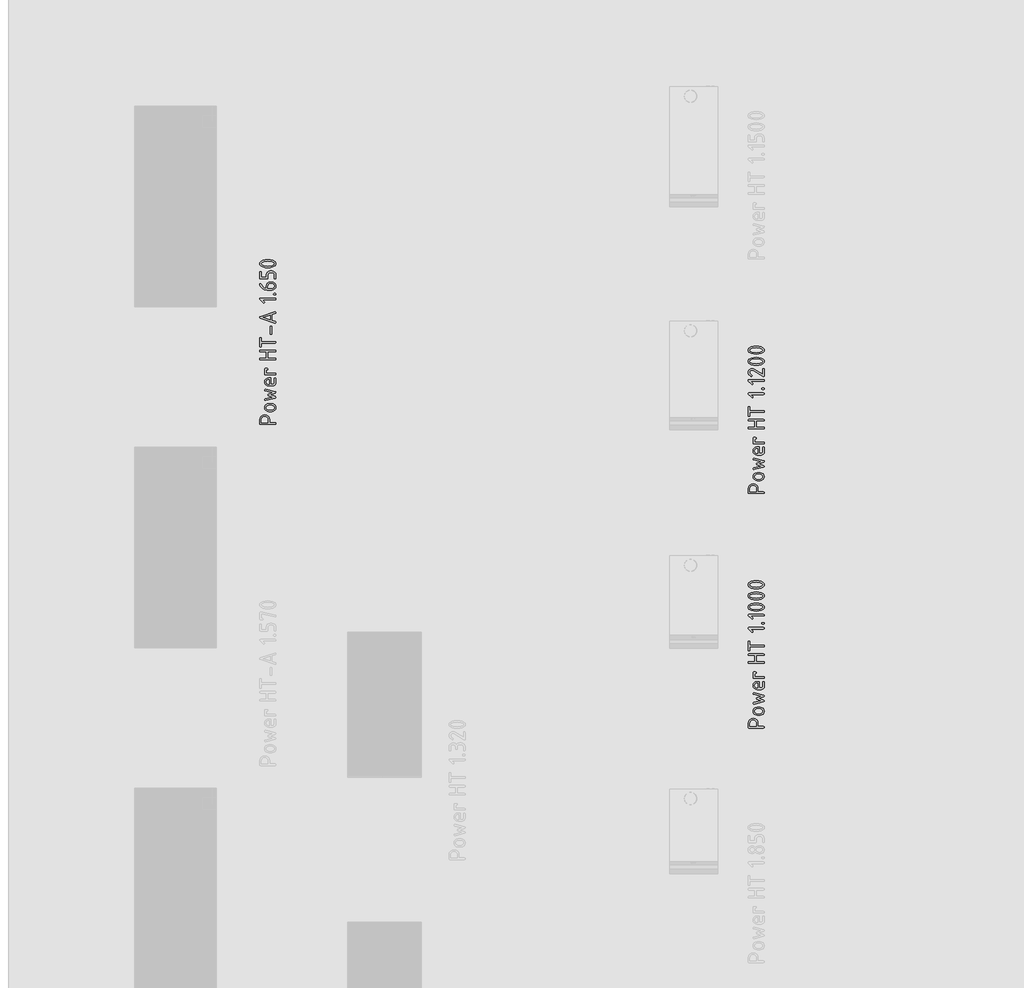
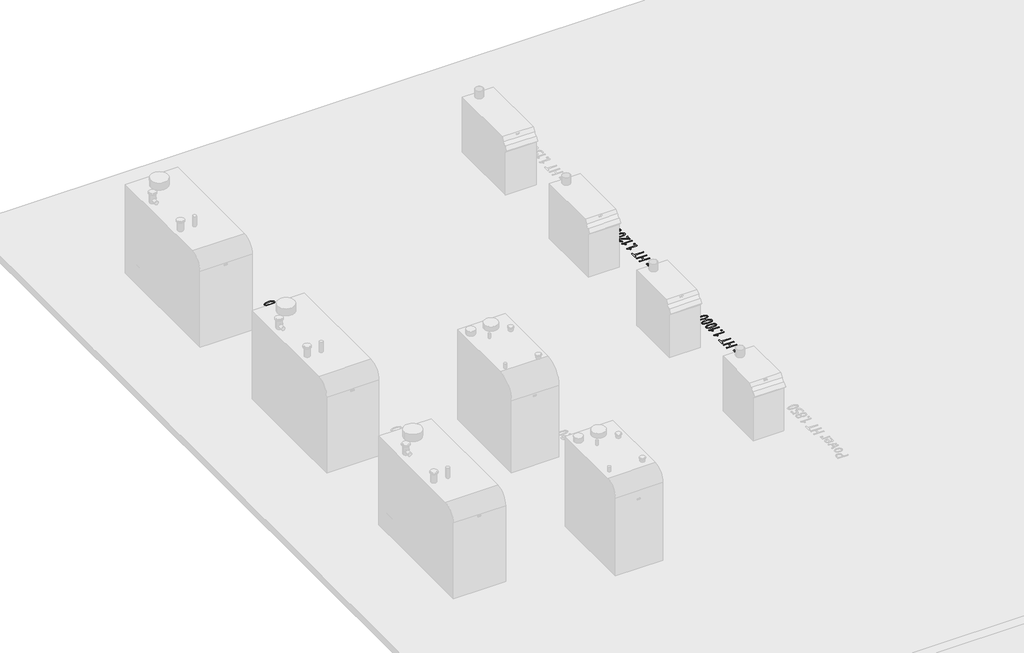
# One storey, part 33 of 37: 3 proxies.
"""IFC4 building model written with IfcOpenShell, lengths in millimetres."""

from ifc_helpers import new_model, si_unit, frame, origin, place, context, project, spatial, polyline, outline, extrude, element, save

model = new_model("IFC4")

# Units and contexts
model_context = context("Model", 3, world=origin())
ifc_project = project(units=[si_unit("LENGTHUNIT", "METRE", prefix="MILLI")], contexts=[model_context])

# Site, building, storey
site = spatial("IfcSite", under=ifc_project)
building = spatial("IfcBuilding", under=site)
storey = spatial("IfcBuildingStorey", under=building, Name="01_Стартовый вид_Площадка", Elevation=0.0)

# Proxies
placement = place(None, origin())
element("IfcBuildingElementProxy", 1, Name="150 мм", ObjectType="150 мм", at=placement, inside=storey, context=model_context, shape_type="SweptSolid", body=[
    extrude(outline(polyline([(4705.0274469, 2232.9020615), (4705.0274469, 2270.1769062), (4708.3833815, 2287.4310044), (4718.4511852, 2301.8785025), (4733.3131812, 2311.661651), (4751.0516925, 2314.9227005), (4769.5892359, 2311.8314453), (4784.2914255, 2302.5576797), (4793.87981, 2288.3399033), (4797.0759381, 2270.4166158), (4797.0759381, 2240.7725271), (4848.5336016, 2240.7725271), (4854.0469227, 2238.8548502), (4855.8846964, 2233.1018195), (4853.9969832, 2227.3487888), (4848.3338436, 2225.4311119), (4712.5782997, 2225.4311119), (4706.9151601, 2227.2988493), (4705.0274469, 2232.9020615)]), holes=[polyline([(4720.3688621, 2240.7725271), (4781.7345229, 2240.7725271), (4781.7345229, 2270.1769062), (4779.5122151, 2281.5681068), (4772.8452915, 2291.0516183), (4762.952276, 2297.4488686), (4751.0516925, 2299.5812853), (4739.1511091, 2297.4488686), (4729.2580936, 2291.0516183), (4722.59117, 2281.5681068), (4720.3688621, 2270.1769062), (4720.3688621, 2240.7725271)])]), frame((0.0, 0.0, -10.0), z_axis=(0.0, 0.0, 1.0), x_axis=(1.0, 0.0, 0.0)), (0.0, 0.0, 1.0), 10.0),
    extrude(outline(polyline([(4818.4500452, 2345.6055309), (4788.4863437, 2345.6055309), (4774.093779, 2348.3172459), (4761.9984315, 2356.4523909), (4753.7883773, 2368.4328776), (4751.0516925, 2382.6806177), (4753.7584136, 2397.0781763), (4761.8785767, 2409.0286992), (4773.9439605, 2417.0739531), (4788.4863437, 2419.7557044), (4818.4500452, 2419.7557044), (4832.8426099, 2417.0439894), (4844.9379574, 2408.9088444), (4853.1480116, 2396.9283577), (4855.8846964, 2382.6806177), (4853.1480116, 2368.4328776), (4844.9379574, 2356.4523909), (4832.8426099, 2348.3172459), (4818.4500452, 2345.6055309)]), holes=[polyline([(4818.0105776, 2404.4142892), (4788.0069245, 2404.4142892), (4779.3773784, 2402.8212191), (4772.1061868, 2398.0420087), (4767.1621761, 2391.0155206), (4765.5141725, 2382.6806177), (4767.1621761, 2374.3457147), (4772.1061868, 2367.3192267), (4779.3773784, 2362.5400163), (4788.0069245, 2360.9469461), (4818.0105776, 2360.9469461), (4826.7200269, 2362.5250344), (4833.9912184, 2367.2592993), (4838.9052655, 2374.2708054), (4840.5432812, 2382.6806177), (4838.8952776, 2391.0155206), (4833.9512668, 2398.0420087), (4826.6700874, 2402.8212191), (4818.0105776, 2404.4142892)])]), frame((0.0, 0.0, -10.0), z_axis=(0.0, 0.0, 1.0), x_axis=(1.0, 0.0, 0.0)), (0.0, 0.0, 1.0), 10.0),
    extrude(outline(polyline([(4855.8846964, 2525.1080791), (4850.4512785, 2517.8368875), (4809.7006444, 2502.6153271), (4850.2115689, 2487.3538151), (4855.8846964, 2480.0826235), (4854.1268259, 2475.2285039), (4848.8532144, 2472.4918191), (4760.3604158, 2450.31868), (4758.2030293, 2450.0789704), (4752.8395267, 2451.9566957), (4751.0516925, 2457.5898716), (4752.4699744, 2462.364088), (4756.72482, 2464.8610631), (4823.0844311, 2481.4809296), (4785.8095863, 2495.4240387), (4780.9354909, 2502.6153271), (4785.8095863, 2509.6468091), (4823.2042859, 2523.6298698), (4756.72482, 2540.3296395), (4752.4699744, 2542.886542), (4751.0516925, 2547.600831), (4753.1491516, 2552.8344909), (4758.2030293, 2555.1117322), (4760.3604158, 2554.8720226), (4849.292682, 2532.6189803), (4854.2366928, 2529.9422229), (4855.8846964, 2525.1080791)])), frame((0.0, 0.0, -10.0), z_axis=(0.0, 0.0, 1.0), x_axis=(1.0, 0.0, 0.0)), (0.0, 0.0, 1.0), 10.0),
    extrude(outline(polyline([(4809.8604508, 2601.2957842), (4825.201866, 2601.2957842), (4836.0087744, 2605.7304121), (4840.5432812, 2616.277635), (4840.5432812, 2653.7921894), (4842.4609581, 2659.4253652), (4848.2139888, 2661.3030905), (4853.9670195, 2659.4253652), (4855.8846964, 2653.7921894), (4855.8846964, 2616.277635), (4853.717322, 2604.6217551), (4847.2151987, 2594.8236247), (4837.5568989, 2588.1716829), (4825.9209948, 2585.954369), (4788.4863437, 2585.954369), (4774.093779, 2588.7359993), (4761.9984315, 2597.0808902), (4753.7883773, 2609.3210623), (4751.0516925, 2623.7885362), (4753.7084741, 2638.365877), (4761.6788187, 2650.4562306), (4773.5244687, 2658.5913756), (4787.8071664, 2661.3030905), (4809.8604508, 2661.3030905), (4809.8604508, 2601.2957842)]), holes=[polyline([(4764.5153824, 2623.7885362), (4766.163386, 2615.1589901), (4771.1073968, 2607.8877986), (4778.3785884, 2602.9437878), (4787.0081344, 2601.2957842), (4794.5190356, 2601.2957842), (4794.5190356, 2646.2812882), (4787.0081344, 2646.2812882), (4778.3785884, 2644.6332846), (4771.1073968, 2639.6892738), (4766.163386, 2632.4180822), (4764.5153824, 2623.7885362)])]), frame((0.0, 0.0, -10.0), z_axis=(0.0, 0.0, 1.0), x_axis=(1.0, 0.0, 0.0)), (0.0, 0.0, 1.0), 10.0),
    extrude(outline(polyline([(4758.5226421, 2690.7873729), (4752.9194299, 2692.7050498), (4751.0516925, 2698.4580805), (4751.0516925, 2743.6433424), (4752.9693694, 2749.2465546), (4758.7224001, 2751.114292), (4773.9040089, 2751.114292), (4779.5371848, 2749.2465546), (4781.4149101, 2743.6433424), (4779.5371848, 2738.0101665), (4773.9040089, 2736.1324412), (4766.3931077, 2736.1324412), (4766.3931077, 2706.1287881), (4848.4137468, 2706.1287881), (4854.016959, 2704.2111112), (4855.8846964, 2698.4580805), (4854.016959, 2692.7050498), (4848.4137468, 2690.7873729), (4758.5226421, 2690.7873729)])), frame((0.0, 0.0, -10.0), z_axis=(0.0, 0.0, 1.0), x_axis=(1.0, 0.0, 0.0)), (0.0, 0.0, 1.0), 10.0),
    extrude(outline(polyline([(4848.3338436, 2831.4170122), (4712.5782997, 2831.4170122), (4706.9151601, 2833.3346891), (4705.0274469, 2839.0877198), (4706.9451238, 2844.8407505), (4712.6981545, 2846.7584274), (4766.3931077, 2846.7584274), (4766.3931077, 2905.5671856), (4712.6981545, 2905.5671856), (4706.9451238, 2907.4848625), (4705.0274469, 2913.2378932), (4706.9151601, 2918.9909239), (4712.5782997, 2920.9086008), (4848.3338436, 2920.9086008), (4853.9969832, 2918.9909239), (4855.8846964, 2913.2378932), (4854.0269469, 2907.4848625), (4848.4536984, 2905.5671856), (4781.7345229, 2905.5671856), (4781.7345229, 2846.7584274), (4848.4536984, 2846.7584274), (4854.0269469, 2844.8407505), (4855.8846964, 2839.0877198), (4853.9969832, 2833.3346891), (4848.3338436, 2831.4170122)])), frame((0.0, 0.0, -10.0), z_axis=(0.0, 0.0, 1.0), x_axis=(1.0, 0.0, 0.0)), (0.0, 0.0, 1.0), 10.0),
    extrude(outline(polyline([(4712.6981545, 2949.8735123), (4706.9451238, 2951.7512376), (4705.0274469, 2957.3844135), (4705.0274469, 3032.7331351), (4706.9451238, 3038.3363472), (4712.6981545, 3040.2040846), (4718.4511852, 3038.3363472), (4720.3688621, 3032.7331351), (4720.3688621, 3002.7294819), (4848.3737952, 3002.7294819), (4854.0069711, 3000.811805), (4855.8846964, 2995.0587743), (4854.0069711, 2989.3057436), (4848.3737952, 2987.3880667), (4720.3688621, 2987.3880667), (4720.3688621, 2957.3844135), (4718.4511852, 2951.7512376), (4712.6981545, 2949.8735123)])), frame((0.0, 0.0, -10.0), z_axis=(0.0, 0.0, 1.0), x_axis=(1.0, 0.0, 0.0)), (0.0, 0.0, 1.0), 10.0),
    extrude(outline(polyline([(4730.7562787, 3153.5867313), (4748.0553224, 3136.3276392), (4750.2127089, 3131.0939794), (4748.3349836, 3125.4608035), (4742.7018077, 3123.5830782), (4737.4681478, 3125.7804163), (4707.9838655, 3155.1048922), (4705.0274469, 3161.2574389), (4706.9151601, 3167.0104696), (4712.5782997, 3168.9281465), (4848.3338436, 3168.9281465), (4853.9969832, 3167.0104696), (4855.8846964, 3161.2574389), (4853.9969832, 3155.5044082), (4848.3338436, 3153.5867313), (4730.7562787, 3153.5867313)])), frame((0.0, 0.0, -10.0), z_axis=(0.0, 0.0, 1.0), x_axis=(1.0, 0.0, 0.0)), (0.0, 0.0, 1.0), 10.0),
    extrude(outline(polyline([(4840.5432812, 3199.6109769), (4834.7902505, 3201.5286538), (4832.8725736, 3207.2816845), (4834.7902505, 3213.0347152), (4840.5432812, 3214.9523921), (4848.2139888, 3214.9523921), (4853.9670195, 3213.0347152), (4855.8846964, 3207.2816845), (4853.9670195, 3201.5286538), (4848.2139888, 3199.6109769), (4840.5432812, 3199.6109769)])), frame((0.0, 0.0, -10.0), z_axis=(0.0, 0.0, 1.0), x_axis=(1.0, 0.0, 0.0)), (0.0, 0.0, 1.0), 10.0),
    extrude(outline(polyline([(4730.7562787, 3276.3180529), (4748.0553224, 3259.0589608), (4750.2127089, 3253.8253009), (4748.3349836, 3248.1921251), (4742.7018077, 3246.3143998), (4737.4681478, 3248.5117379), (4707.9838655, 3277.8362138), (4705.0274469, 3283.9887605), (4706.9151601, 3289.7417912), (4712.5782997, 3291.6594681), (4848.3338436, 3291.6594681), (4853.9969832, 3289.7417912), (4855.8846964, 3283.9887605), (4853.9969832, 3278.2357298), (4848.3338436, 3276.3180529), (4730.7562787, 3276.3180529)])), frame((0.0, 0.0, -10.0), z_axis=(0.0, 0.0, 1.0), x_axis=(1.0, 0.0, 0.0)), (0.0, 0.0, 1.0), 10.0),
    extrude(outline(polyline([(4780.4560717, 3396.492472), (4805.5956173, 3394.8644442), (4827.0795913, 3389.9803608), (4848.6834201, 3377.5654005), (4854.0843773, 3369.2080247), (4855.8846964, 3359.4173852), (4854.0918682, 3349.6267457), (4848.7133838, 3341.26937), (4827.1994461, 3328.8544096), (4805.6855084, 3323.9703263), (4780.4560717, 3322.3422985), (4755.226635, 3323.9703263), (4733.7126972, 3328.8544096), (4712.1987595, 3341.26937), (4706.8202751, 3349.6267457), (4705.0274469, 3359.4173852), (4706.827766, 3369.2080247), (4712.2287232, 3377.5654005), (4733.832552, 3389.9803608), (4755.3165261, 3394.8644442), (4780.4560717, 3396.492472)]), holes=[polyline([(4780.4560717, 3381.1510568), (4745.2986618, 3377.315703), (4726.6013121, 3369.9246566), (4720.3688621, 3359.4173852), (4726.6312758, 3349.000005), (4745.4185166, 3341.6389223), (4780.4560717, 3337.6837137), (4815.6134815, 3341.5190675), (4834.3108313, 3348.9101139), (4840.5432812, 3359.4173852), (4834.3108313, 3369.9246566), (4815.6134815, 3377.315703), (4780.4560717, 3381.1510568)])]), frame((0.0, 0.0, -10.0), z_axis=(0.0, 0.0, 1.0), x_axis=(1.0, 0.0, 0.0)), (0.0, 0.0, 1.0), 10.0),
    extrude(outline(polyline([(4780.4560717, 3501.3254758), (4805.5956173, 3499.697448), (4827.0795913, 3494.8133647), (4848.6834201, 3482.3984043), (4854.0843773, 3474.0410286), (4855.8846964, 3464.2503891), (4854.0918682, 3454.4597496), (4848.7133838, 3446.1023738), (4827.1994461, 3433.6874135), (4805.6855084, 3428.8033301), (4780.4560717, 3427.1753024), (4755.226635, 3428.8033301), (4733.7126972, 3433.6874135), (4712.1987595, 3446.1023738), (4706.8202751, 3454.4597496), (4705.0274469, 3464.2503891), (4706.827766, 3474.0410286), (4712.2287232, 3482.3984043), (4733.832552, 3494.8133647), (4755.3165261, 3499.697448), (4780.4560717, 3501.3254758)]), holes=[polyline([(4780.4560717, 3485.9840606), (4745.2986618, 3482.1487068), (4726.6013121, 3474.7576604), (4720.3688621, 3464.2503891), (4726.6312758, 3453.8330088), (4745.4185166, 3446.4719262), (4780.4560717, 3442.5167176), (4815.6134815, 3446.3520714), (4834.3108313, 3453.7431177), (4840.5432812, 3464.2503891), (4834.3108313, 3474.7576604), (4815.6134815, 3482.1487068), (4780.4560717, 3485.9840606)])]), frame((0.0, 0.0, -10.0), z_axis=(0.0, 0.0, 1.0), x_axis=(1.0, 0.0, 0.0)), (0.0, 0.0, 1.0), 10.0),
    extrude(outline(polyline([(4780.4560717, 3606.1584797), (4805.5956173, 3604.5304519), (4827.0795913, 3599.6463685), (4848.6834201, 3587.2314082), (4854.0843773, 3578.8740324), (4855.8846964, 3569.0833929), (4854.0918682, 3559.2927534), (4848.7133838, 3550.9353777), (4827.1994461, 3538.5204173), (4805.6855084, 3533.636334), (4780.4560717, 3532.0083062), (4755.226635, 3533.636334), (4733.7126972, 3538.5204173), (4712.1987595, 3550.9353777), (4706.8202751, 3559.2927534), (4705.0274469, 3569.0833929), (4706.827766, 3578.8740324), (4712.2287232, 3587.2314082), (4733.832552, 3599.6463685), (4755.3165261, 3604.5304519), (4780.4560717, 3606.1584797)]), holes=[polyline([(4780.4560717, 3590.8170645), (4745.2986618, 3586.9817107), (4726.6013121, 3579.5906643), (4720.3688621, 3569.0833929), (4726.6312758, 3558.6660127), (4745.4185166, 3551.30493), (4780.4560717, 3547.3497214), (4815.6134815, 3551.1850752), (4834.3108313, 3558.5761216), (4840.5432812, 3569.0833929), (4834.3108313, 3579.5906643), (4815.6134815, 3586.9817107), (4780.4560717, 3590.8170645)])]), frame((0.0, 0.0, -10.0), z_axis=(0.0, 0.0, 1.0), x_axis=(1.0, 0.0, 0.0)), (0.0, 0.0, 1.0), 10.0),
])
element("IfcBuildingElementProxy", 2, Name="150 мм", ObjectType="150 мм", at=placement, inside=storey, context=model_context, shape_type="SweptSolid", body=[
    extrude(outline(polyline([(4705.0274469, 4432.9020615), (4705.0274469, 4470.1769062), (4708.3833815, 4487.4310044), (4718.4511852, 4501.8785025), (4733.3131812, 4511.661651), (4751.0516925, 4514.9227005), (4769.5892359, 4511.8314453), (4784.2914255, 4502.5576797), (4793.87981, 4488.3399033), (4797.0759381, 4470.4166158), (4797.0759381, 4440.7725271), (4848.5336016, 4440.7725271), (4854.0469227, 4438.8548502), (4855.8846964, 4433.1018195), (4853.9969832, 4427.3487888), (4848.3338436, 4425.4311119), (4712.5782997, 4425.4311119), (4706.9151601, 4427.2988493), (4705.0274469, 4432.9020615)]), holes=[polyline([(4720.3688621, 4440.7725271), (4781.7345229, 4440.7725271), (4781.7345229, 4470.1769062), (4779.5122151, 4481.5681068), (4772.8452915, 4491.0516183), (4762.952276, 4497.4488686), (4751.0516925, 4499.5812853), (4739.1511091, 4497.4488686), (4729.2580936, 4491.0516183), (4722.59117, 4481.5681068), (4720.3688621, 4470.1769062), (4720.3688621, 4440.7725271)])]), frame((0.0, 0.0, -10.0), z_axis=(0.0, 0.0, 1.0), x_axis=(1.0, 0.0, 0.0)), (0.0, 0.0, 1.0), 10.0),
    extrude(outline(polyline([(4818.4500452, 4545.6055309), (4788.4863437, 4545.6055309), (4774.093779, 4548.3172459), (4761.9984315, 4556.4523909), (4753.7883773, 4568.4328776), (4751.0516925, 4582.6806177), (4753.7584136, 4597.0781763), (4761.8785767, 4609.0286992), (4773.9439605, 4617.0739531), (4788.4863437, 4619.7557044), (4818.4500452, 4619.7557044), (4832.8426099, 4617.0439894), (4844.9379574, 4608.9088444), (4853.1480116, 4596.9283577), (4855.8846964, 4582.6806177), (4853.1480116, 4568.4328776), (4844.9379574, 4556.4523909), (4832.8426099, 4548.3172459), (4818.4500452, 4545.6055309)]), holes=[polyline([(4818.0105776, 4604.4142892), (4788.0069245, 4604.4142892), (4779.3773784, 4602.8212191), (4772.1061868, 4598.0420087), (4767.1621761, 4591.0155206), (4765.5141725, 4582.6806177), (4767.1621761, 4574.3457147), (4772.1061868, 4567.3192267), (4779.3773784, 4562.5400163), (4788.0069245, 4560.9469461), (4818.0105776, 4560.9469461), (4826.7200269, 4562.5250344), (4833.9912184, 4567.2592993), (4838.9052655, 4574.2708054), (4840.5432812, 4582.6806177), (4838.8952776, 4591.0155206), (4833.9512668, 4598.0420087), (4826.6700874, 4602.8212191), (4818.0105776, 4604.4142892)])]), frame((0.0, 0.0, -10.0), z_axis=(0.0, 0.0, 1.0), x_axis=(1.0, 0.0, 0.0)), (0.0, 0.0, 1.0), 10.0),
    extrude(outline(polyline([(4855.8846964, 4725.1080791), (4850.4512785, 4717.8368875), (4809.7006444, 4702.6153271), (4850.2115689, 4687.3538151), (4855.8846964, 4680.0826235), (4854.1268259, 4675.2285039), (4848.8532144, 4672.4918191), (4760.3604158, 4650.31868), (4758.2030293, 4650.0789704), (4752.8395267, 4651.9566957), (4751.0516925, 4657.5898716), (4752.4699744, 4662.364088), (4756.72482, 4664.8610631), (4823.0844311, 4681.4809296), (4785.8095863, 4695.4240387), (4780.9354909, 4702.6153271), (4785.8095863, 4709.6468091), (4823.2042859, 4723.6298698), (4756.72482, 4740.3296395), (4752.4699744, 4742.886542), (4751.0516925, 4747.600831), (4753.1491516, 4752.8344909), (4758.2030293, 4755.1117322), (4760.3604158, 4754.8720226), (4849.292682, 4732.6189803), (4854.2366928, 4729.9422229), (4855.8846964, 4725.1080791)])), frame((0.0, 0.0, -10.0), z_axis=(0.0, 0.0, 1.0), x_axis=(1.0, 0.0, 0.0)), (0.0, 0.0, 1.0), 10.0),
    extrude(outline(polyline([(4809.8604508, 4801.2957842), (4825.201866, 4801.2957842), (4836.0087744, 4805.7304121), (4840.5432812, 4816.277635), (4840.5432812, 4853.7921894), (4842.4609581, 4859.4253652), (4848.2139888, 4861.3030905), (4853.9670195, 4859.4253652), (4855.8846964, 4853.7921894), (4855.8846964, 4816.277635), (4853.717322, 4804.6217551), (4847.2151987, 4794.8236247), (4837.5568989, 4788.1716829), (4825.9209948, 4785.954369), (4788.4863437, 4785.954369), (4774.093779, 4788.7359993), (4761.9984315, 4797.0808902), (4753.7883773, 4809.3210623), (4751.0516925, 4823.7885362), (4753.7084741, 4838.365877), (4761.6788187, 4850.4562306), (4773.5244687, 4858.5913756), (4787.8071664, 4861.3030905), (4809.8604508, 4861.3030905), (4809.8604508, 4801.2957842)]), holes=[polyline([(4764.5153824, 4823.7885362), (4766.163386, 4815.1589901), (4771.1073968, 4807.8877986), (4778.3785884, 4802.9437878), (4787.0081344, 4801.2957842), (4794.5190356, 4801.2957842), (4794.5190356, 4846.2812882), (4787.0081344, 4846.2812882), (4778.3785884, 4844.6332846), (4771.1073968, 4839.6892738), (4766.163386, 4832.4180822), (4764.5153824, 4823.7885362)])]), frame((0.0, 0.0, -10.0), z_axis=(0.0, 0.0, 1.0), x_axis=(1.0, 0.0, 0.0)), (0.0, 0.0, 1.0), 10.0),
    extrude(outline(polyline([(4758.5226421, 4890.7873729), (4752.9194299, 4892.7050498), (4751.0516925, 4898.4580805), (4751.0516925, 4943.6433424), (4752.9693694, 4949.2465546), (4758.7224001, 4951.114292), (4773.9040089, 4951.114292), (4779.5371848, 4949.2465546), (4781.4149101, 4943.6433424), (4779.5371848, 4938.0101665), (4773.9040089, 4936.1324412), (4766.3931077, 4936.1324412), (4766.3931077, 4906.1287881), (4848.4137468, 4906.1287881), (4854.016959, 4904.2111112), (4855.8846964, 4898.4580805), (4854.016959, 4892.7050498), (4848.4137468, 4890.7873729), (4758.5226421, 4890.7873729)])), frame((0.0, 0.0, -10.0), z_axis=(0.0, 0.0, 1.0), x_axis=(1.0, 0.0, 0.0)), (0.0, 0.0, 1.0), 10.0),
    extrude(outline(polyline([(4848.3338436, 5031.4170122), (4712.5782997, 5031.4170122), (4706.9151601, 5033.3346891), (4705.0274469, 5039.0877198), (4706.9451238, 5044.8407505), (4712.6981545, 5046.7584274), (4766.3931077, 5046.7584274), (4766.3931077, 5105.5671856), (4712.6981545, 5105.5671856), (4706.9451238, 5107.4848625), (4705.0274469, 5113.2378932), (4706.9151601, 5118.9909239), (4712.5782997, 5120.9086008), (4848.3338436, 5120.9086008), (4853.9969832, 5118.9909239), (4855.8846964, 5113.2378932), (4854.0269469, 5107.4848625), (4848.4536984, 5105.5671856), (4781.7345229, 5105.5671856), (4781.7345229, 5046.7584274), (4848.4536984, 5046.7584274), (4854.0269469, 5044.8407505), (4855.8846964, 5039.0877198), (4853.9969832, 5033.3346891), (4848.3338436, 5031.4170122)])), frame((0.0, 0.0, -10.0), z_axis=(0.0, 0.0, 1.0), x_axis=(1.0, 0.0, 0.0)), (0.0, 0.0, 1.0), 10.0),
    extrude(outline(polyline([(4712.6981545, 5149.8735123), (4706.9451238, 5151.7512376), (4705.0274469, 5157.3844135), (4705.0274469, 5232.7331351), (4706.9451238, 5238.3363472), (4712.6981545, 5240.2040846), (4718.4511852, 5238.3363472), (4720.3688621, 5232.7331351), (4720.3688621, 5202.7294819), (4848.3737952, 5202.7294819), (4854.0069711, 5200.811805), (4855.8846964, 5195.0587743), (4854.0069711, 5189.3057436), (4848.3737952, 5187.3880667), (4720.3688621, 5187.3880667), (4720.3688621, 5157.3844135), (4718.4511852, 5151.7512376), (4712.6981545, 5149.8735123)])), frame((0.0, 0.0, -10.0), z_axis=(0.0, 0.0, 1.0), x_axis=(1.0, 0.0, 0.0)), (0.0, 0.0, 1.0), 10.0),
    extrude(outline(polyline([(4730.7562787, 5353.5867313), (4748.0553224, 5336.3276392), (4750.2127089, 5331.0939794), (4748.3349836, 5325.4608035), (4742.7018077, 5323.5830782), (4737.4681478, 5325.7804163), (4707.9838655, 5355.1048922), (4705.0274469, 5361.2574389), (4706.9151601, 5367.0104696), (4712.5782997, 5368.9281465), (4848.3338436, 5368.9281465), (4853.9969832, 5367.0104696), (4855.8846964, 5361.2574389), (4853.9969832, 5355.5044082), (4848.3338436, 5353.5867313), (4730.7562787, 5353.5867313)])), frame((0.0, 0.0, -10.0), z_axis=(0.0, 0.0, 1.0), x_axis=(1.0, 0.0, 0.0)), (0.0, 0.0, 1.0), 10.0),
    extrude(outline(polyline([(4840.5432812, 5399.6109769), (4834.7902505, 5401.5286538), (4832.8725736, 5407.2816845), (4834.7902505, 5413.0347152), (4840.5432812, 5414.9523921), (4848.2139888, 5414.9523921), (4853.9670195, 5413.0347152), (4855.8846964, 5407.2816845), (4853.9670195, 5401.5286538), (4848.2139888, 5399.6109769), (4840.5432812, 5399.6109769)])), frame((0.0, 0.0, -10.0), z_axis=(0.0, 0.0, 1.0), x_axis=(1.0, 0.0, 0.0)), (0.0, 0.0, 1.0), 10.0),
    extrude(outline(polyline([(4730.7562787, 5476.3180529), (4748.0553224, 5459.0589608), (4750.2127089, 5453.8253009), (4748.3349836, 5448.1921251), (4742.7018077, 5446.3143998), (4737.4681478, 5448.5117379), (4707.9838655, 5477.8362138), (4705.0274469, 5483.9887605), (4706.9151601, 5489.7417912), (4712.5782997, 5491.6594681), (4848.3338436, 5491.6594681), (4853.9969832, 5489.7417912), (4855.8846964, 5483.9887605), (4853.9969832, 5478.2357298), (4848.3338436, 5476.3180529), (4730.7562787, 5476.3180529)])), frame((0.0, 0.0, -10.0), z_axis=(0.0, 0.0, 1.0), x_axis=(1.0, 0.0, 0.0)), (0.0, 0.0, 1.0), 10.0),
    extrude(outline(polyline([(4705.0274469, 5559.4972884), (4707.7791135, 5573.9248107), (4716.0341133, 5586.045128), (4728.1943822, 5594.2701641), (4742.6618561, 5597.0118428), (4753.4587766, 5595.3039118), (4764.355576, 5590.1801188), (4840.5432812, 5542.9173736), (4840.5432812, 5589.5009416), (4842.4609581, 5595.1341175), (4848.2139888, 5597.0118428), (4853.9670195, 5595.1341175), (4855.8846964, 5589.5009416), (4855.8846964, 5529.4936353), (4854.0069711, 5523.8604594), (4848.3737952, 5521.9827341), (4844.0190706, 5523.2611854), (4755.4064172, 5578.2345898), (4742.9415173, 5581.9900404), (4734.2770136, 5580.3420368), (4726.9808523, 5575.3980261), (4722.0218597, 5568.1268345), (4720.3688621, 5559.4972884), (4725.0831512, 5547.2621103), (4739.2260183, 5535.9657948), (4742.8616141, 5529.4936353), (4740.9838888, 5523.8604594), (4735.3507129, 5521.9827341), (4732.2744396, 5522.7018629), (4711.8391951, 5538.8722739), (4706.730384, 5548.6279557), (4705.0274469, 5559.4972884)])), frame((0.0, 0.0, -10.0), z_axis=(0.0, 0.0, 1.0), x_axis=(1.0, 0.0, 0.0)), (0.0, 0.0, 1.0), 10.0),
    extrude(outline(polyline([(4780.4560717, 5701.3254758), (4805.5956173, 5699.697448), (4827.0795913, 5694.8133647), (4848.6834201, 5682.3984043), (4854.0843773, 5674.0410286), (4855.8846964, 5664.2503891), (4854.0918682, 5654.4597496), (4848.7133838, 5646.1023738), (4827.1994461, 5633.6874135), (4805.6855084, 5628.8033301), (4780.4560717, 5627.1753024), (4755.226635, 5628.8033301), (4733.7126972, 5633.6874135), (4712.1987595, 5646.1023738), (4706.8202751, 5654.4597496), (4705.0274469, 5664.2503891), (4706.827766, 5674.0410286), (4712.2287232, 5682.3984043), (4733.832552, 5694.8133647), (4755.3165261, 5699.697448), (4780.4560717, 5701.3254758)]), holes=[polyline([(4780.4560717, 5685.9840606), (4745.2986618, 5682.1487068), (4726.6013121, 5674.7576604), (4720.3688621, 5664.2503891), (4726.6312758, 5653.8330088), (4745.4185166, 5646.4719262), (4780.4560717, 5642.5167176), (4815.6134815, 5646.3520714), (4834.3108313, 5653.7431177), (4840.5432812, 5664.2503891), (4834.3108313, 5674.7576604), (4815.6134815, 5682.1487068), (4780.4560717, 5685.9840606)])]), frame((0.0, 0.0, -10.0), z_axis=(0.0, 0.0, 1.0), x_axis=(1.0, 0.0, 0.0)), (0.0, 0.0, 1.0), 10.0),
    extrude(outline(polyline([(4780.4560717, 5806.1584797), (4805.5956173, 5804.5304519), (4827.0795913, 5799.6463685), (4848.6834201, 5787.2314082), (4854.0843773, 5778.8740324), (4855.8846964, 5769.0833929), (4854.0918682, 5759.2927534), (4848.7133838, 5750.9353777), (4827.1994461, 5738.5204173), (4805.6855084, 5733.636334), (4780.4560717, 5732.0083062), (4755.226635, 5733.636334), (4733.7126972, 5738.5204173), (4712.1987595, 5750.9353777), (4706.8202751, 5759.2927534), (4705.0274469, 5769.0833929), (4706.827766, 5778.8740324), (4712.2287232, 5787.2314082), (4733.832552, 5799.6463685), (4755.3165261, 5804.5304519), (4780.4560717, 5806.1584797)]), holes=[polyline([(4780.4560717, 5790.8170645), (4745.2986618, 5786.9817107), (4726.6013121, 5779.5906643), (4720.3688621, 5769.0833929), (4726.6312758, 5758.6660127), (4745.4185166, 5751.30493), (4780.4560717, 5747.3497214), (4815.6134815, 5751.1850752), (4834.3108313, 5758.5761216), (4840.5432812, 5769.0833929), (4834.3108313, 5779.5906643), (4815.6134815, 5786.9817107), (4780.4560717, 5790.8170645)])]), frame((0.0, 0.0, -10.0), z_axis=(0.0, 0.0, 1.0), x_axis=(1.0, 0.0, 0.0)), (0.0, 0.0, 1.0), 10.0),
])
element("IfcBuildingElementProxy", 3, Name="150 мм", ObjectType="150 мм", at=placement, inside=storey, context=model_context, shape_type="SweptSolid", body=[
    extrude(outline(polyline([(124.0044159, 5080.5103581), (124.0044159, 5117.7852028), (127.3603504, 5135.039301), (137.4281542, 5149.4867991), (152.2901501, 5159.2699476), (170.0286615, 5162.5309972), (188.5662048, 5159.4397419), (203.2683944, 5150.1659763), (212.8567789, 5135.9481999), (216.052907, 5118.0249124), (216.052907, 5088.3808237), (267.5105705, 5088.3808237), (273.0238916, 5086.4631468), (274.8616653, 5080.7101161), (272.9739521, 5074.9570854), (267.3108125, 5073.0394085), (131.5552687, 5073.0394085), (125.8921291, 5074.9071459), (124.0044159, 5080.5103581)]), holes=[polyline([(139.3458311, 5088.3808237), (200.7114919, 5088.3808237), (200.7114919, 5117.7852028), (198.489184, 5129.1764034), (191.8222604, 5138.6599149), (181.9292449, 5145.0571652), (170.0286615, 5147.189582), (158.128078, 5145.0571652), (148.2350625, 5138.6599149), (141.5681389, 5129.1764034), (139.3458311, 5117.7852028), (139.3458311, 5088.3808237)])]), frame((0.0, 0.0, -10.0), z_axis=(0.0, 0.0, 1.0), x_axis=(1.0, 0.0, 0.0)), (0.0, 0.0, 1.0), 10.0),
    extrude(outline(polyline([(237.4270142, 5193.2138276), (207.4633126, 5193.2138276), (193.070748, 5195.9255425), (180.9754004, 5204.0606875), (172.7653462, 5216.0411742), (170.0286615, 5230.2889143), (172.7353825, 5244.6864729), (180.8555456, 5256.6369958), (192.9209294, 5264.6822497), (207.4633126, 5267.364001), (237.4270142, 5267.364001), (251.8195788, 5264.652286), (263.9149263, 5256.517141), (272.1249806, 5244.5366544), (274.8616653, 5230.2889143), (272.1249806, 5216.0411742), (263.9149263, 5204.0606875), (251.8195788, 5195.9255425), (237.4270142, 5193.2138276)]), holes=[polyline([(236.9875465, 5252.0225858), (206.9838934, 5252.0225858), (198.3543473, 5250.4295157), (191.0831558, 5245.6503053), (186.139145, 5238.6238173), (184.4911414, 5230.2889143), (186.139145, 5221.9540113), (191.0831558, 5214.9275233), (198.3543473, 5210.1483129), (206.9838934, 5208.5552427), (236.9875465, 5208.5552427), (245.6969958, 5210.133331), (252.9681874, 5214.8675959), (257.8822344, 5221.879102), (259.5202501, 5230.2889143), (257.8722465, 5238.6238173), (252.9282358, 5245.6503053), (245.6470563, 5250.4295157), (236.9875465, 5252.0225858)])]), frame((0.0, 0.0, -10.0), z_axis=(0.0, 0.0, 1.0), x_axis=(1.0, 0.0, 0.0)), (0.0, 0.0, 1.0), 10.0),
    extrude(outline(polyline([(274.8616653, 5372.7163757), (269.4282474, 5365.4451841), (228.6776133, 5350.2236237), (269.1885378, 5334.9621117), (274.8616653, 5327.6909201), (273.1037948, 5322.8368005), (267.8301833, 5320.1001157), (179.3373847, 5297.9269766), (177.1799982, 5297.687267), (171.8164956, 5299.5649923), (170.0286615, 5305.1981682), (171.4469433, 5309.9723846), (175.701789, 5312.4693598), (242.0614, 5329.0892262), (204.7865553, 5343.0323353), (199.9124598, 5350.2236237), (204.7865553, 5357.2551057), (242.1812548, 5371.2381664), (175.701789, 5387.9379361), (171.4469433, 5390.4948386), (170.0286615, 5395.2091277), (172.1261206, 5400.4427875), (177.1799982, 5402.7200288), (179.3373847, 5402.4803192), (268.269651, 5380.2272769), (273.2136617, 5377.5505195), (274.8616653, 5372.7163757)])), frame((0.0, 0.0, -10.0), z_axis=(0.0, 0.0, 1.0), x_axis=(1.0, 0.0, 0.0)), (0.0, 0.0, 1.0), 10.0),
    extrude(outline(polyline([(228.8374197, 5448.9040808), (244.1788349, 5448.9040808), (254.9857433, 5453.3387087), (259.5202501, 5463.8859316), (259.5202501, 5501.400486), (261.437927, 5507.0336619), (267.1909577, 5508.9113872), (272.9439884, 5507.0336619), (274.8616653, 5501.400486), (274.8616653, 5463.8859316), (272.6942909, 5452.2300517), (266.1921677, 5442.4319213), (256.5338679, 5435.7799796), (244.8979637, 5433.5626656), (207.4633126, 5433.5626656), (193.070748, 5436.3442959), (180.9754004, 5444.6891868), (172.7653462, 5456.9293589), (170.0286615, 5471.3968328), (172.685443, 5485.9741736), (180.6557876, 5498.0645272), (192.5014376, 5506.1996722), (206.7841354, 5508.9113872), (228.8374197, 5508.9113872), (228.8374197, 5448.9040808)]), holes=[polyline([(183.4923514, 5471.3968328), (185.1403549, 5462.7672868), (190.0843657, 5455.4960952), (197.3555573, 5450.5520844), (205.9851033, 5448.9040808), (213.4960045, 5448.9040808), (213.4960045, 5493.8895848), (205.9851033, 5493.8895848), (197.3555573, 5492.2415812), (190.0843657, 5487.2975704), (185.1403549, 5480.0263789), (183.4923514, 5471.3968328)])]), frame((0.0, 0.0, -10.0), z_axis=(0.0, 0.0, 1.0), x_axis=(1.0, 0.0, 0.0)), (0.0, 0.0, 1.0), 10.0),
    extrude(outline(polyline([(177.499611, 5538.3956695), (171.8963989, 5540.3133464), (170.0286615, 5546.0663771), (170.0286615, 5591.251639), (171.9463384, 5596.8548512), (177.6993691, 5598.7225886), (192.8809778, 5598.7225886), (198.5141537, 5596.8548512), (200.391879, 5591.251639), (198.5141537, 5585.6184632), (192.8809778, 5583.7407379), (185.3700767, 5583.7407379), (185.3700767, 5553.7370847), (267.3907157, 5553.7370847), (272.9939279, 5551.8194078), (274.8616653, 5546.0663771), (272.9939279, 5540.3133464), (267.3907157, 5538.3956695), (177.499611, 5538.3956695)])), frame((0.0, 0.0, -10.0), z_axis=(0.0, 0.0, 1.0), x_axis=(1.0, 0.0, 0.0)), (0.0, 0.0, 1.0), 10.0),
    extrude(outline(polyline([(267.3108125, 5679.0253088), (131.5552687, 5679.0253088), (125.8921291, 5680.9429857), (124.0044159, 5686.6960164), (125.9220928, 5692.4490471), (131.6751235, 5694.366724), (185.3700767, 5694.366724), (185.3700767, 5753.1754823), (131.6751235, 5753.1754823), (125.9220928, 5755.0931592), (124.0044159, 5760.8461899), (125.8921291, 5766.5992206), (131.5552687, 5768.5168975), (267.3108125, 5768.5168975), (272.9739521, 5766.5992206), (274.8616653, 5760.8461899), (273.0039158, 5755.0931592), (267.4306673, 5753.1754823), (200.7114919, 5753.1754823), (200.7114919, 5694.366724), (267.4306673, 5694.366724), (273.0039158, 5692.4490471), (274.8616653, 5686.6960164), (272.9739521, 5680.9429857), (267.3108125, 5679.0253088)])), frame((0.0, 0.0, -10.0), z_axis=(0.0, 0.0, 1.0), x_axis=(1.0, 0.0, 0.0)), (0.0, 0.0, 1.0), 10.0),
    extrude(outline(polyline([(131.6751235, 5797.481809), (125.9220928, 5799.3595343), (124.0044159, 5804.9927102), (124.0044159, 5880.3414317), (125.9220928, 5885.9446439), (131.6751235, 5887.8123813), (137.4281542, 5885.9446439), (139.3458311, 5880.3414317), (139.3458311, 5850.3377785), (267.3507641, 5850.3377785), (272.98394, 5848.4201016), (274.8616653, 5842.6670709), (272.98394, 5836.9140402), (267.3507641, 5834.9963633), (139.3458311, 5834.9963633), (139.3458311, 5804.9927102), (137.4281542, 5799.3595343), (131.6751235, 5797.481809)])), frame((0.0, 0.0, -10.0), z_axis=(0.0, 0.0, 1.0), x_axis=(1.0, 0.0, 0.0)), (0.0, 0.0, 1.0), 10.0),
    extrude(outline(polyline([(236.5081273, 5986.53279), (236.5081273, 5926.5254837), (234.5904504, 5920.8923078), (228.8374197, 5919.0145825), (223.084389, 5920.8923078), (221.1667121, 5926.5254837), (221.1667121, 5986.53279), (223.084389, 5992.1659659), (228.8374197, 5994.0436912), (234.5904504, 5992.1659659), (236.5081273, 5986.53279)])), frame((0.0, 0.0, -10.0), z_axis=(0.0, 0.0, 1.0), x_axis=(1.0, 0.0, 0.0)), (0.0, 0.0, 1.0), 10.0),
    extrude(outline(polyline([(267.3108125, 6128.8803482), (272.9739521, 6127.0026229), (274.8616653, 6121.369447), (273.5532503, 6116.8449281), (269.6280054, 6114.2181102), (236.5081273, 6103.4311777), (236.5081273, 6049.3367085), (269.6280054, 6038.5098243), (273.5532503, 6035.8830065), (274.8616653, 6031.3584875), (272.9739521, 6025.7253116), (267.3108125, 6023.8475863), (264.9137164, 6024.2071508), (130.0770594, 6068.8730419), (125.5225767, 6071.769533), (124.0044159, 6076.3839431), (125.4626493, 6080.9384257), (129.8373498, 6083.7350378), (264.9137164, 6128.5207838), (267.3108125, 6128.8803482)]), holes=[polyline([(155.0068591, 6076.3839431), (221.1667121, 6054.3306587), (221.1667121, 6098.3972758), (155.0068591, 6076.3839431)])]), frame((0.0, 0.0, -10.0), z_axis=(0.0, 0.0, 1.0), x_axis=(1.0, 0.0, 0.0)), (0.0, 0.0, 1.0), 10.0),
    extrude(outline(polyline([(149.7332476, 6241.543866), (167.0322913, 6224.284774), (169.1896778, 6219.0511141), (167.3119525, 6213.4179382), (161.6787766, 6211.5402129), (156.4451167, 6213.737551), (126.9608344, 6243.0620269), (124.0044159, 6249.2145736), (125.8921291, 6254.9676043), (131.5552687, 6256.8852812), (267.3108125, 6256.8852812), (272.9739521, 6254.9676043), (274.8616653, 6249.2145736), (272.9739521, 6243.4615429), (267.3108125, 6241.543866), (149.7332476, 6241.543866)])), frame((0.0, 0.0, -10.0), z_axis=(0.0, 0.0, 1.0), x_axis=(1.0, 0.0, 0.0)), (0.0, 0.0, 1.0), 10.0),
    extrude(outline(polyline([(259.5202501, 6287.5681116), (253.7672194, 6289.4857885), (251.8495425, 6295.2388192), (253.7672194, 6300.9918499), (259.5202501, 6302.9095268), (267.1909577, 6302.9095268), (272.9439884, 6300.9918499), (274.8616653, 6295.2388192), (272.9439884, 6289.4857885), (267.1909577, 6287.5681116), (259.5202501, 6287.5681116)])), frame((0.0, 0.0, -10.0), z_axis=(0.0, 0.0, 1.0), x_axis=(1.0, 0.0, 0.0)), (0.0, 0.0, 1.0), 10.0),
    extrude(outline(polyline([(124.0044159, 6385.0500207), (125.9220928, 6390.5633418), (131.6751235, 6392.4011155), (138.3070894, 6388.7255681), (145.5583052, 6373.4141166), (158.7623097, 6360.1601726), (171.8065077, 6352.5194287), (185.3700767, 6348.9337724), (185.3700767, 6370.6274924), (188.0817916, 6385.1049542), (196.2169366, 6397.0554771), (208.2473628, 6405.0707673), (222.6449214, 6407.7425307), (237.5868206, 6407.7425307), (251.9843792, 6405.0308157), (264.0148053, 6396.8956707), (272.1499503, 6384.9151841), (274.8616653, 6370.667444), (272.1349685, 6356.3447946), (263.9548779, 6344.3792898), (251.8595304, 6336.2890904), (237.3870626, 6333.5923572), (191.8821878, 6333.5923572), (167.8512991, 6337.737336), (146.9765871, 6350.1722721), (134.1720986, 6363.6958894), (125.7223348, 6378.3781032), (124.0044159, 6385.0500207)]), holes=[polyline([(200.7114919, 6348.9337724), (237.4669658, 6348.9337724), (245.9916389, 6350.5118607), (253.108018, 6355.2461256), (257.9171921, 6362.2576317), (259.5202501, 6370.667444), (257.9072042, 6379.0772562), (253.0680664, 6386.0887624), (245.9416994, 6390.8230272), (237.4669658, 6392.4011155), (222.7647762, 6392.4011155), (214.2401031, 6390.8080454), (207.123724, 6386.028835), (202.3145499, 6379.0023469), (200.7114919, 6370.667444), (200.7114919, 6348.9337724)])]), frame((0.0, 0.0, -10.0), z_axis=(0.0, 0.0, 1.0), x_axis=(1.0, 0.0, 0.0)), (0.0, 0.0, 1.0), 10.0),
    extrude(outline(polyline([(193.0407843, 6438.4253611), (131.6751235, 6438.4253611), (125.9220928, 6440.2631348), (124.0044159, 6445.7764559), (124.0044159, 6497.2341193), (125.9220928, 6502.8672952), (131.6751235, 6504.7450205), (137.4281542, 6502.8672952), (139.3458311, 6497.2341193), (139.3458311, 6453.7667763), (185.3700767, 6453.7667763), (185.3700767, 6475.8200606), (188.1117553, 6489.9529399), (196.3367914, 6501.8285536), (208.3971813, 6509.8887893), (222.6449214, 6512.5755345), (237.5868206, 6512.5755345), (251.9094699, 6509.8488377), (263.9548779, 6501.6687472), (272.1349685, 6489.6732786), (274.8616653, 6475.5004478), (274.8616653, 6445.8563591), (272.9439884, 6440.2831106), (267.1909577, 6438.4253611), (261.437927, 6440.2631348), (259.5202501, 6445.7764559), (259.5202501, 6475.180835), (257.9171921, 6483.7055081), (253.108018, 6490.8218872), (245.9916389, 6495.6310613), (237.4669658, 6497.2341193), (222.7647762, 6497.2341193), (214.2900426, 6495.6210734), (207.1636756, 6490.7819356), (202.3245378, 6483.6555686), (200.7114919, 6475.180835), (200.7114919, 6445.7764559), (198.793815, 6440.2631348), (193.0407843, 6438.4253611)])), frame((0.0, 0.0, -10.0), z_axis=(0.0, 0.0, 1.0), x_axis=(1.0, 0.0, 0.0)), (0.0, 0.0, 1.0), 10.0),
    extrude(outline(polyline([(199.4330406, 6617.4085384), (224.5725862, 6615.7805106), (246.0565602, 6610.8964273), (267.660389, 6598.4814669), (273.0613462, 6590.1240911), (274.8616653, 6580.3334517), (273.0688372, 6570.5428122), (267.6903527, 6562.1854364), (246.176415, 6549.7704761), (224.6624773, 6544.8863927), (199.4330406, 6543.2583649), (174.2036039, 6544.8863927), (152.6896662, 6549.7704761), (131.1757284, 6562.1854364), (125.797244, 6570.5428122), (124.0044159, 6580.3334517), (125.8047349, 6590.1240911), (131.2056921, 6598.4814669), (152.809521, 6610.8964273), (174.293495, 6615.7805106), (199.4330406, 6617.4085384)]), holes=[polyline([(199.4330406, 6602.0671232), (164.2756308, 6598.2317694), (145.578281, 6590.840723), (139.3458311, 6580.3334517), (145.6082447, 6569.9160714), (164.3954856, 6562.5549887), (199.4330406, 6558.5997801), (234.5904504, 6562.4351339), (253.2878002, 6569.8261803), (259.5202501, 6580.3334517), (253.2878002, 6590.840723), (234.5904504, 6598.2317694), (199.4330406, 6602.0671232)])]), frame((0.0, 0.0, -10.0), z_axis=(0.0, 0.0, 1.0), x_axis=(1.0, 0.0, 0.0)), (0.0, 0.0, 1.0), 10.0),
])

save(model, "model.ifc")
